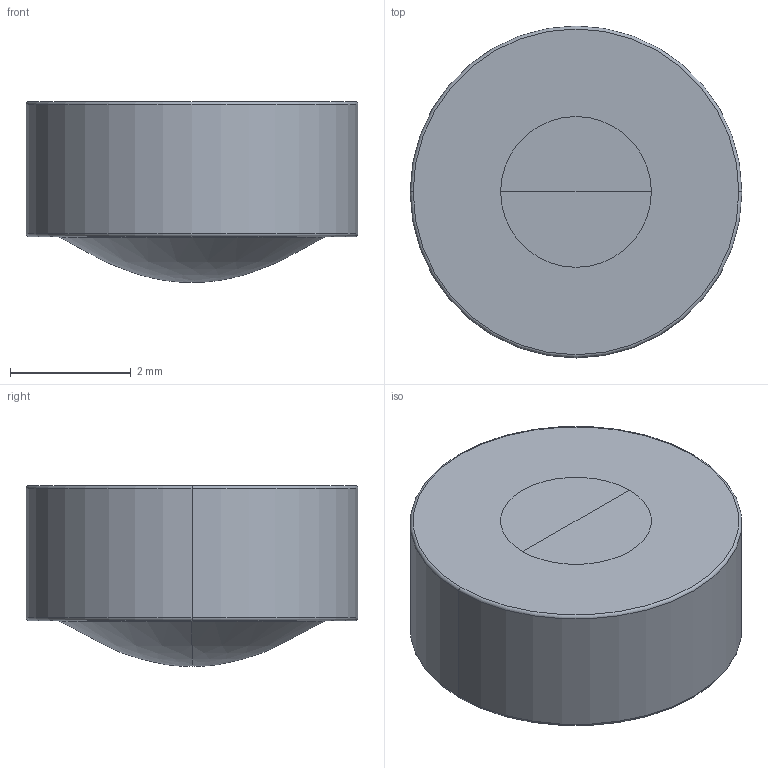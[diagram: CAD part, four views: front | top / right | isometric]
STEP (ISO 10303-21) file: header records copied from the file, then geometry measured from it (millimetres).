
FILE_DESCRIPTION((''),'2;1');
FILE_NAME('390037','2025-07-31T20:47:44',('admin'),('LIGHTPATH'),'CREO PARAMETRIC BY PTC INC, 2024063','CREO PARAMETRIC BY PTC INC, 2024063','');
FILE_SCHEMA(('CONFIG_CONTROL_DESIGN'));
Length unit declared in the file: millimetre
Products named in the file (1): 390037
Bounding box: 5.5 x 5.5 x 3 mm (x, y, z)
Volume: 58.8 mm3; surface area: 87.1 mm2
Topology: 1 solids, 1 shells, 14 faces, 30 edges, 16 vertices
Faces by surface type: torus 6, revolution 4, plane 2, cylinder 2
Entity records: 911 total; most frequent: CARTESIAN_POINT 575, DIRECTION 68, ORIENTED_EDGE 52, AXIS2_PLACEMENT_3D 30, EDGE_CURVE 26, CIRCLE 20, VERTEX_POINT 16, EDGE_LOOP 16
